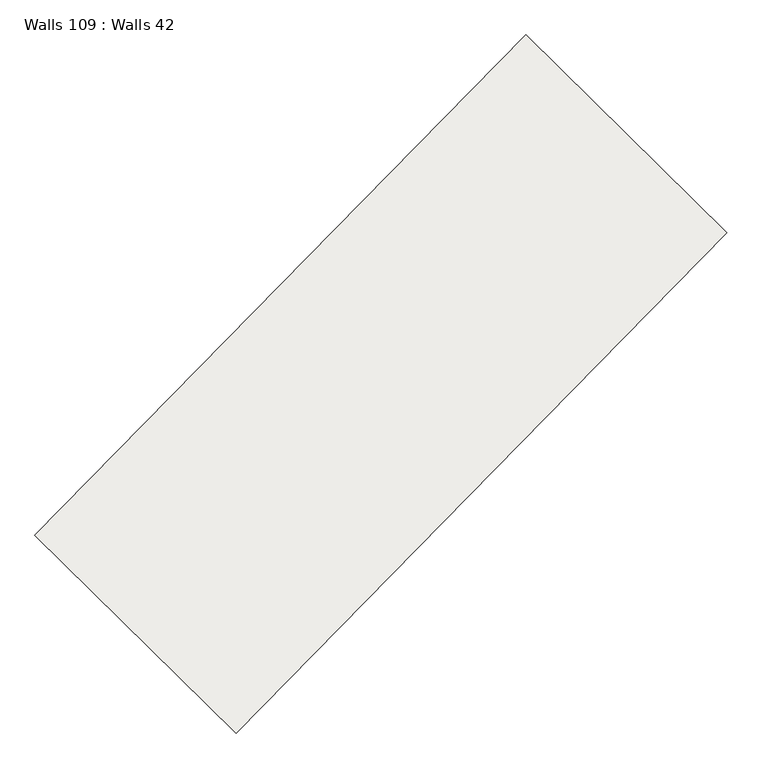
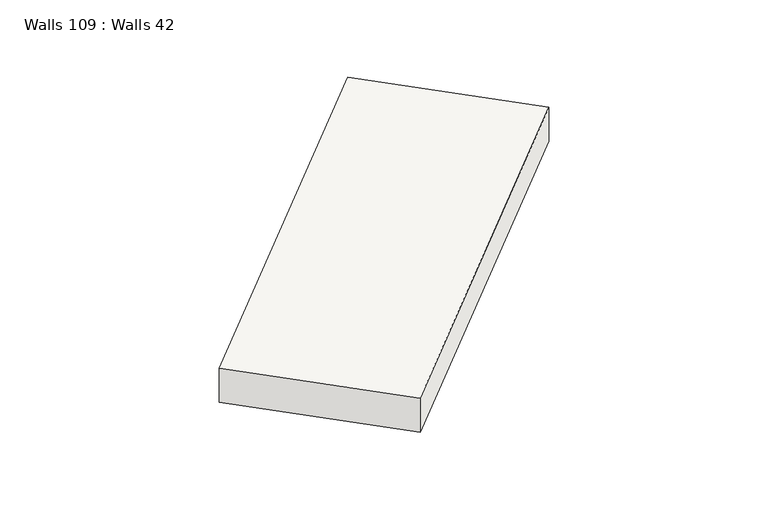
"""IFC4 building model written with IfcOpenShell, lengths in millimetres: slab geometry, Walls 109 : Walls 42."""

import ifcopenshell
import ifcopenshell.guid

model = None  # the IFC model being written
_history = None  # IfcOwnerHistory: only IFC2X3 demands one
_inside = {}  # id of a spatial element -> (the spatial element, [elements in it])
_under = {}  # id of a project, library or spatial element -> (it, [spatial elements below it])
_declared = {}  # id of a project -> (the project, [libraries it declares])
_typed = {}  # id of a type object -> (the type object, [elements of that type])
_made_of = {}  # id of a material, layer set ... -> (it, [elements and type objects made of it])


def new_model(schema):
    """Start an empty IFC model of exactly this schema.

    Asked for "IFC4X3", IfcOpenShell would pick the latest addendum, in which some entities
    have other attributes; the version numbers below select the first issue.
    IFC2X3 requires an IfcOwnerHistory on every rooted entity: one is made here for all.
    """
    global model, _history
    if schema == "IFC4X3":
        model = ifcopenshell.file(schema_version=(4, 3, 0, 0))
    else:
        model = ifcopenshell.file(schema=schema)
    _inside.clear()
    _under.clear()
    _declared.clear()
    _typed.clear()
    _made_of.clear()
    _history = None
    if model.schema == "IFC2X3":
        org = make("IfcOrganization", Name="unknown")
        user = make(
            "IfcPersonAndOrganization",
            ThePerson=make("IfcPerson", FamilyName="unknown"),
            TheOrganization=org,
        )
        app = make(
            "IfcApplication",
            ApplicationDeveloper=org,
            Version="unknown",
            ApplicationFullName="unknown",
            ApplicationIdentifier="unknown",
        )
        _history = make(
            "IfcOwnerHistory",
            OwningUser=user,
            OwningApplication=app,
            ChangeAction="ADDED",
            CreationDate=0,
        )
    return model


def make(cls, **values):
    """One entity of the class cls with the attributes given. An attribute that is None is left unset."""
    return model.create_entity(
        cls, **{name: value for name, value in values.items() if value is not None}
    )


def rooted(cls, **values):
    """An entity with a GlobalId (a new one), such as an element, a storey or a relation."""
    return make(cls, GlobalId=ifcopenshell.guid.new(), OwnerHistory=_history, **values)


def si_unit(unit_type, name, prefix=None):
    """IfcSIUnit, for example si_unit("LENGTHUNIT", "METRE", prefix="MILLI")."""
    return make("IfcSIUnit", UnitType=unit_type, Prefix=prefix, Name=name)


def assignment(units):
    """IfcUnitAssignment: the units of a project."""
    return None if units is None else make("IfcUnitAssignment", Units=units)


def point(xyz):
    """IfcCartesianPoint."""
    return None if xyz is None else make("IfcCartesianPoint", Coordinates=xyz)


def direction(xyz):
    """IfcDirection."""
    return None if xyz is None else make("IfcDirection", DirectionRatios=xyz)


def frame(location, z_axis=None, x_axis=None):
    """IfcAxis2Placement3D, a coordinate frame: its origin and axes. An axis left out is left unset."""
    return make(
        "IfcAxis2Placement3D",
        Location=point(location),
        Axis=direction(z_axis),
        RefDirection=direction(x_axis),
    )


def origin():
    """The frame at (0, 0, 0) with its axes left unset."""
    return frame((0.0, 0.0, 0.0))


def place(relative_to, where):
    """IfcLocalPlacement: puts the frame where relative to a parent placement (None: the world)."""
    return make(
        "IfcLocalPlacement", PlacementRelTo=relative_to, RelativePlacement=where
    )


def context(
    kind, dimensions, precision=None, world=None, true_north=None, identifier=None
):
    """IfcGeometricRepresentationContext, for example the 3D "Model" context."""
    return make(
        "IfcGeometricRepresentationContext",
        ContextIdentifier=identifier,
        ContextType=kind,
        CoordinateSpaceDimension=dimensions,
        Precision=precision,
        WorldCoordinateSystem=world,
        TrueNorth=true_north,
    )


def project(units=None, contexts=None):
    """IfcProject with its units and contexts."""
    return rooted(
        "IfcProject",
        Name="project",
        RepresentationContexts=contexts,
        UnitsInContext=assignment(units),
    )


def spatial(cls, under=None, at=None, **own):
    """A site, building, storey or space (cls), placed at a placement, below another one or the project."""
    s = rooted(cls, ObjectPlacement=at, **own)
    if under is not None:
        _under.setdefault(under.id(), (under, []))[1].append(s)
    return s


def polyline(points):
    """IfcPolyline through the points."""
    return make("IfcPolyline", Points=[point(p) for p in points])


def outline(outer, holes=None, kind="AREA"):
    """IfcArbitraryClosedProfileDef: a profile drawn as a closed curve; with holes, ...WithVoids."""
    if holes is None:
        return make("IfcArbitraryClosedProfileDef", ProfileType=kind, OuterCurve=outer)
    return make(
        "IfcArbitraryProfileDefWithVoids",
        ProfileType=kind,
        OuterCurve=outer,
        InnerCurves=holes,
    )


def extrude(swept, where, along, depth):
    """IfcExtrudedAreaSolid: the profile swept, set in the frame where, extruded along a direction by depth."""
    return make(
        "IfcExtrudedAreaSolid",
        SweptArea=swept,
        Position=where,
        ExtrudedDirection=direction(along),
        Depth=depth,
    )


def shape(context_of_items, identifier, shape_type, items):
    """IfcShapeRepresentation: the items that make up one representation, for example the "Body"."""
    return make(
        "IfcShapeRepresentation",
        ContextOfItems=context_of_items,
        RepresentationIdentifier=identifier,
        RepresentationType=shape_type,
        Items=items,
    )


def source(mapping_origin, context_of_items, identifier, shape_type, items):
    """IfcRepresentationMap: a shape defined once, which mapped items show again and again."""
    return make(
        "IfcRepresentationMap",
        MappingOrigin=mapping_origin,
        MappedRepresentation=shape(context_of_items, identifier, shape_type, items),
    )


def transform(
    local_origin,
    x_axis=None,
    y_axis=None,
    z_axis=None,
    scale=None,
    scale2=None,
    scale3=None,
    uniform=True,
):
    """IfcCartesianTransformationOperator3D, or its non-uniform kind. x_axis, y_axis, z_axis: its Axis1, 2, 3."""
    if uniform:
        return make(
            "IfcCartesianTransformationOperator3D",
            Axis1=direction(x_axis),
            Axis2=direction(y_axis),
            LocalOrigin=point(local_origin),
            Scale=scale,
            Axis3=direction(z_axis),
        )
    return make(
        "IfcCartesianTransformationOperator3DnonUniform",
        Axis1=direction(x_axis),
        Axis2=direction(y_axis),
        LocalOrigin=point(local_origin),
        Scale=scale,
        Axis3=direction(z_axis),
        Scale2=scale2,
        Scale3=scale3,
    )


def mapped(mapping_source, mapping_target):
    """IfcMappedItem: shows the shape of a source again, moved by a transform."""
    return make(
        "IfcMappedItem", MappingSource=mapping_source, MappingTarget=mapping_target
    )


def made_of(thing, what):
    """Note that an element or type object is made of a material, layer set ...; save() writes the relation."""
    if what is not None:
        _made_of.setdefault(what.id(), (what, []))[1].append(thing)
    return thing


def element(
    cls,
    number,
    at=None,
    inside=None,
    cuts=None,
    type_object=None,
    material=None,
    context=None,
    identifier="Body",
    shape_type=None,
    held_by="IfcProductDefinitionShape",
    body=None,
    shapes=None,
    **own,
):
    """One element of the class cls, such as IfcWall. Its Tag is "e" and its number.

    at: its placement. inside: the storey or other place that contains it. cuts: it is an
    opening in that element (IfcRelVoidsElement). A single representation is given by context,
    identifier, shape_type and body (its items); several are given by shapes. held_by: the class
    of the entity that holds the representations. save() writes the other relations.
    """
    e = rooted(cls, Tag="e%d" % number, ObjectPlacement=at, **own)
    if body is not None:
        shapes = [shape(context, identifier, shape_type, body)]
    if shapes is not None:
        e.Representation = make(held_by, Representations=shapes)
    if inside is not None:
        _inside.setdefault(inside.id(), (inside, []))[1].append(e)
    if cuts is not None:
        rooted(
            "IfcRelVoidsElement", RelatingBuildingElement=cuts, RelatedOpeningElement=e
        )
    if type_object is not None:
        _typed.setdefault(type_object.id(), (type_object, []))[1].append(e)
    return made_of(e, material)


def aggregate(whole, parts):
    """IfcRelAggregates: a whole, such as a stair, and the parts it consists of."""
    return rooted("IfcRelAggregates", RelatingObject=whole, RelatedObjects=parts)


def save(model, path):
    """Write the relations noted so far, then the file.

    IfcRelAggregates (storeys below a building ...), IfcRelContainedInSpatialStructure (elements
    in a storey), IfcRelDefinesByType, IfcRelAssociatesMaterial and IfcRelDeclares: one each for
    every whole, place, type object, material and project.
    """
    for whole, parts in _under.values():
        aggregate(whole, parts)
    for where, things in _inside.values():
        rooted(
            "IfcRelContainedInSpatialStructure",
            RelatedElements=things,
            RelatingStructure=where,
        )
    for kind, things in _typed.values():
        rooted("IfcRelDefinesByType", RelatedObjects=things, RelatingType=kind)
    for what, things in _made_of.values():
        rooted("IfcRelAssociatesMaterial", RelatedObjects=things, RelatingMaterial=what)
    for by, libraries in _declared.values():
        rooted("IfcRelDeclares", RelatingContext=by, RelatedDefinitions=libraries)
    model.write(path)


def walls_109_walls_42_0e6c787f(model_context):
    return source(origin(), model_context, "Body", "SweptSolid", [
        extrude(outline(polyline([(-350.0, 0.0), (350.0, 0.0), (260.0, -8700.0000009), (-440.0, -8700.0000009), (-350.0, 0.0)])), frame((-127987.323824, -289623.7051821, 636590.0), z_axis=(-0.7137361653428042, 0.7004146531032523, 0.0), x_axis=(0.0, 0.0, 1.0)), (0.0, 0.0, 1.0), 3499.999995),
    ])


if __name__ == "__main__":
    model = new_model("IFC4")
    model_context = context("Model", 3, world=origin())
    ifc_project = project(units=[si_unit("LENGTHUNIT", "METRE", prefix="MILLI")], contexts=[model_context])
    site = spatial("IfcSite", under=ifc_project)
    building = spatial("IfcBuilding", under=site)
    placement = place(None, origin())
    walls_109_walls_42_shape = walls_109_walls_42_0e6c787f(model_context)
    element("IfcSlab", 1, ObjectType="Walls 109 : Walls 42", at=placement, inside=building, context=model_context, shape_type="MappedRepresentation", body=[
        mapped(walls_109_walls_42_shape, transform((0.0, 0.0, 0.0), x_axis=(1.0, 0.0, 0.0), y_axis=(0.0, 1.0, 0.0), z_axis=(0.0, 0.0, 1.0))),
    ])
    save(model, "model.ifc")
